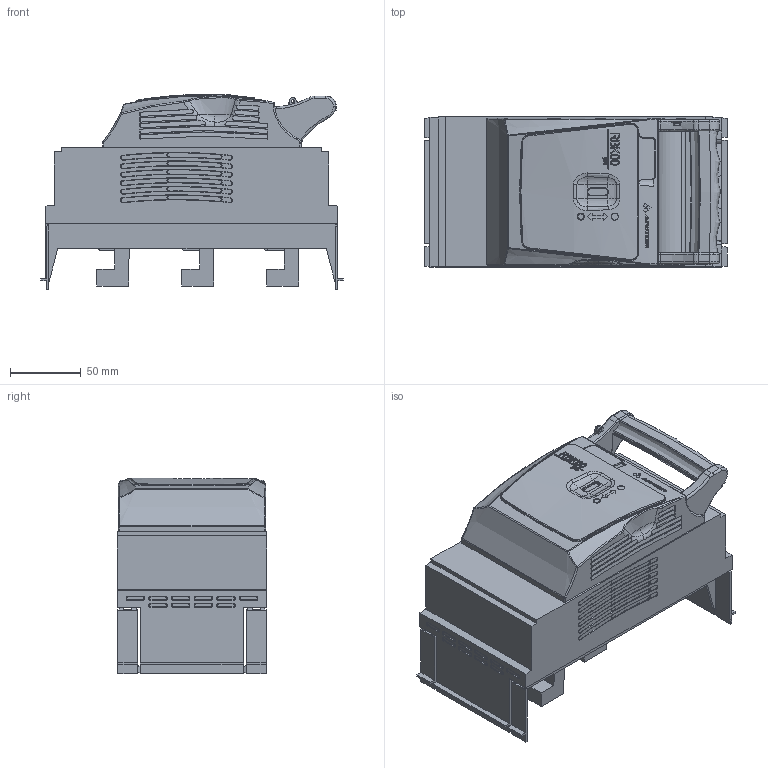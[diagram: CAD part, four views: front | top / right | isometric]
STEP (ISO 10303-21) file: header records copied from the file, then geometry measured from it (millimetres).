
FILE_DESCRIPTION(/* description */ (''),/* implementation_level */ '2;1');
FILE_NAME(/* name */ 'RBK 00 pro-SG-R - 63-823259-151.stp',/* time_stamp */ '2019-03-14T14:56:26+01:00',/* author */ (''),/* organization */ (''),/* preprocessor_version */ 'ST-DEVELOPER v16',/* originating_system */ 'SIEMENS PLM Software NX 10.0',/* authorisation */ '');
FILE_SCHEMA (('AUTOMOTIVE_DESIGN { 1 0 10303 214 3 1 1 1 }'));
Products named in the file (1): 710_1B883FDDch56
Bounding box: 213.94 x 106 x 138.36 mm (x, y, z)
Volume: 1725929.3 mm3; surface area: 171162.3 mm2
Topology: 1 solids, 4 shells, 1964 faces, 5480 edges, 3540 vertices
Faces by surface type: plane 668, extrusion 617, bspline 262, cylinder 184, torus 138, cone 63, sphere 26, revolution 6
Full cylindrical faces by diameter (mm): 2.2 x1, 6 x6
Entity records: 84549 total; most frequent: CARTESIAN_POINT 33244, ORIENTED_EDGE 10828, DIRECTION 9250, EDGE_CURVE 5414, VERTEX_POINT 3532, VECTOR 3108, AXIS2_PLACEMENT_3D 3068, LINE 2491
